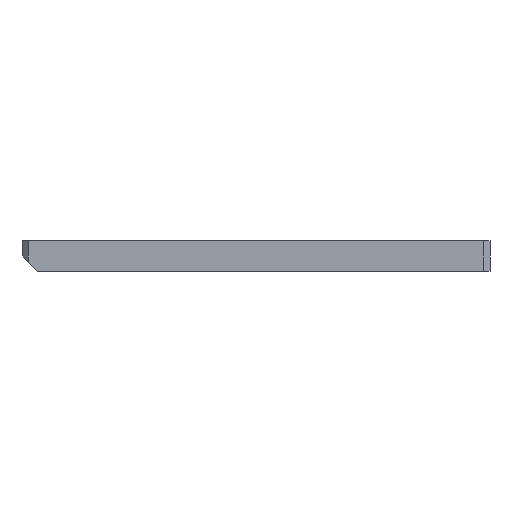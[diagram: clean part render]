
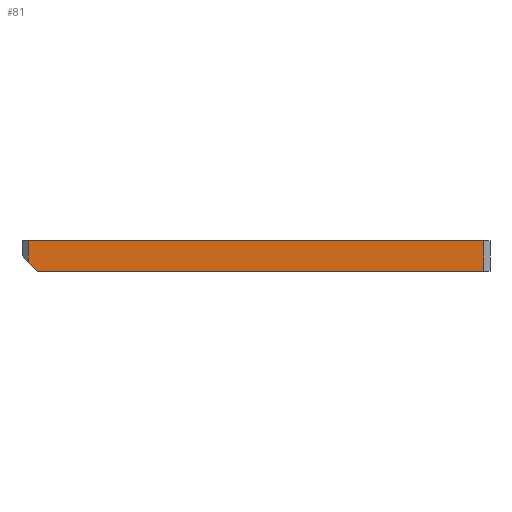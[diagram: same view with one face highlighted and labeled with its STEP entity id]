
A CAD part, front view. The second image highlights one B-rep face of the part: STEP entity #81.
In plain terms, the highlighted planar face has unit normal (0, -1, 0).
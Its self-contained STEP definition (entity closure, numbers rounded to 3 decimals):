
#81 = ADVANCED_FACE( '', ( #151 ), #152, .T. );
#151 = FACE_OUTER_BOUND( '', #270, .T. );
#152 = PLANE( '', #271 );
#270 = EDGE_LOOP( '', ( #433, #434, #435, #436, #437 ) );
#271 = AXIS2_PLACEMENT_3D( '', #438, #439, #440 );
#433 = ORIENTED_EDGE( '', *, *, #692, .T. );
#434 = ORIENTED_EDGE( '', *, *, #693, .T. );
#435 = ORIENTED_EDGE( '', *, *, #676, .T. );
#436 = ORIENTED_EDGE( '', *, *, #671, .T. );
#437 = ORIENTED_EDGE( '', *, *, #648, .T. );
#438 = CARTESIAN_POINT( '', ( 0., -30., -2.5 ) );
#439 = DIRECTION( '', ( 0., -1., 0. ) );
#440 = DIRECTION( '', ( 0., 0., -1. ) );
#648 = EDGE_CURVE( '', #743, #741, #744, .T. );
#671 = EDGE_CURVE( '', #785, #743, #787, .T. );
#676 = EDGE_CURVE( '', #796, #785, #797, .T. );
#692 = EDGE_CURVE( '', #741, #827, #828, .T. );
#693 = EDGE_CURVE( '', #827, #796, #829, .T. );
#741 = VERTEX_POINT( '', #898 );
#743 = VERTEX_POINT( '', #901 );
#744 = LINE( '', #902, #903 );
#785 = VERTEX_POINT( '', #952 );
#787 = LINE( '', #955, #956 );
#796 = VERTEX_POINT( '', #969 );
#797 = LINE( '', #970, #971 );
#827 = VERTEX_POINT( '', #1004 );
#828 = LINE( '', #1005, #1006 );
#829 = LINE( '', #1007, #1008 );
#898 = CARTESIAN_POINT( '', ( -37., -30., 2.5 ) );
#901 = CARTESIAN_POINT( '', ( 37., -30., 2.5 ) );
#902 = CARTESIAN_POINT( '', ( 0., -30., 2.5 ) );
#903 = VECTOR( '', #1086, 1000. );
#952 = CARTESIAN_POINT( '', ( 37., -30., -2.5 ) );
#955 = CARTESIAN_POINT( '', ( 37., -30., -2.5 ) );
#956 = VECTOR( '', #1135, 1000. );
#969 = CARTESIAN_POINT( '', ( -35.5, -30., -2.5 ) );
#970 = CARTESIAN_POINT( '', ( 0., -30., -2.5 ) );
#971 = VECTOR( '', #1140, 1000. );
#1004 = CARTESIAN_POINT( '', ( -37., -30., -1. ) );
#1005 = CARTESIAN_POINT( '', ( -37., -30., -2.5 ) );
#1006 = VECTOR( '', #1180, 1000. );
#1007 = CARTESIAN_POINT( '', ( -17.75, -30., -20.25 ) );
#1008 = VECTOR( '', #1181, 1000. );
#1086 = DIRECTION( '', ( -1., 0., 0. ) );
#1135 = DIRECTION( '', ( 0., 0., 1. ) );
#1140 = DIRECTION( '', ( 1., 0., 0. ) );
#1180 = DIRECTION( '', ( 0., 0., -1. ) );
#1181 = DIRECTION( '', ( 0.707, 0., -0.707 ) );
